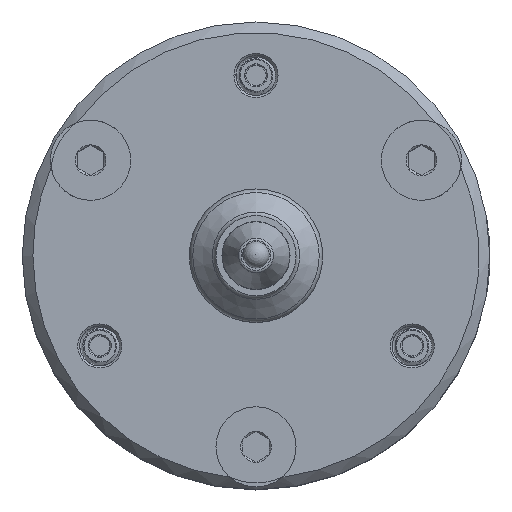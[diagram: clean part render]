
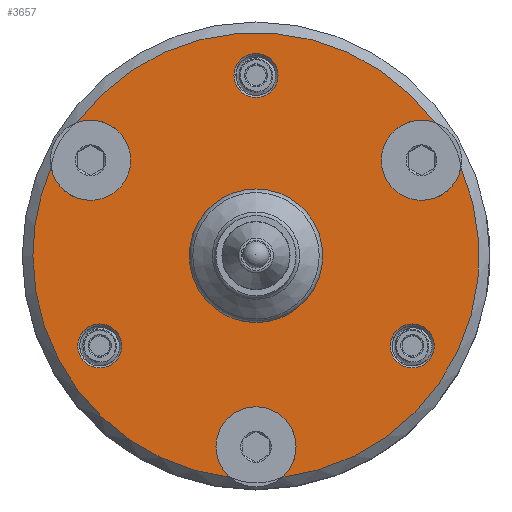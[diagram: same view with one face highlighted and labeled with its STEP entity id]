
A CAD part, top view. The second image highlights one B-rep face of the part: STEP entity #3657.
In plain terms, the highlighted planar face has unit normal (0, 0, 1).
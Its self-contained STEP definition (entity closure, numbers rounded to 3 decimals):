
#99=FACE_BOUND('',#1330,.T.);
#100=FACE_BOUND('',#1331,.T.);
#101=FACE_BOUND('',#1332,.T.);
#102=FACE_BOUND('',#1333,.T.);
#441=PLANE('',#4100);
#1085=FACE_OUTER_BOUND('',#1329,.T.);
#1329=EDGE_LOOP('',(#3186,#3187,#3188,#3189,#3190,#3191,#3192,#3193,#3194));
#1330=EDGE_LOOP('',(#3195));
#1331=EDGE_LOOP('',(#3196));
#1332=EDGE_LOOP('',(#3197));
#1333=EDGE_LOOP('',(#3198));
#1494=CIRCLE('',#4083,16.7);
#1496=CIRCLE('',#4085,16.7);
#1497=CIRCLE('',#4086,16.7);
#1498=CIRCLE('',#4087,16.7);
#1499=CIRCLE('',#4089,3.);
#1501=CIRCLE('',#4091,3.);
#1502=CIRCLE('',#4093,3.);
#1505=CIRCLE('',#4098,1.65);
#1507=CIRCLE('',#4101,3.);
#1508=CIRCLE('',#4102,3.);
#1509=CIRCLE('',#4103,1.65);
#1510=CIRCLE('',#4104,5.);
#1511=CIRCLE('',#4105,1.65);
#1780=VERTEX_POINT('',#11054);
#1781=VERTEX_POINT('',#11055);
#1782=VERTEX_POINT('',#11066);
#1784=VERTEX_POINT('',#11071);
#1786=VERTEX_POINT('',#11080);
#1787=VERTEX_POINT('',#11089);
#1788=VERTEX_POINT('',#11091);
#1789=VERTEX_POINT('',#11104);
#1793=VERTEX_POINT('',#11120);
#1795=VERTEX_POINT('',#11126);
#1796=VERTEX_POINT('',#11129);
#1797=VERTEX_POINT('',#11131);
#1798=VERTEX_POINT('',#11133);
#2253=EDGE_CURVE('',#1781,#1782,#1494,.T.);
#2256=EDGE_CURVE('',#1782,#1784,#1496,.T.);
#2259=EDGE_CURVE('',#1786,#1787,#1497,.T.);
#2261=EDGE_CURVE('',#1788,#1780,#1498,.T.);
#2262=EDGE_CURVE('',#1787,#1789,#1499,.T.);
#2265=EDGE_CURVE('',#1789,#1788,#1501,.T.);
#2266=EDGE_CURVE('',#1784,#1786,#1502,.T.);
#2271=EDGE_CURVE('',#1793,#1793,#1505,.T.);
#2274=EDGE_CURVE('',#1795,#1781,#1507,.T.);
#2275=EDGE_CURVE('',#1780,#1795,#1508,.T.);
#2276=EDGE_CURVE('',#1796,#1796,#1509,.T.);
#2277=EDGE_CURVE('',#1797,#1797,#1510,.T.);
#2278=EDGE_CURVE('',#1798,#1798,#1511,.T.);
#3186=ORIENTED_EDGE('',*,*,#2261,.F.);
#3187=ORIENTED_EDGE('',*,*,#2265,.F.);
#3188=ORIENTED_EDGE('',*,*,#2262,.F.);
#3189=ORIENTED_EDGE('',*,*,#2259,.F.);
#3190=ORIENTED_EDGE('',*,*,#2266,.F.);
#3191=ORIENTED_EDGE('',*,*,#2256,.F.);
#3192=ORIENTED_EDGE('',*,*,#2253,.F.);
#3193=ORIENTED_EDGE('',*,*,#2274,.F.);
#3194=ORIENTED_EDGE('',*,*,#2275,.F.);
#3195=ORIENTED_EDGE('',*,*,#2276,.F.);
#3196=ORIENTED_EDGE('',*,*,#2277,.T.);
#3197=ORIENTED_EDGE('',*,*,#2278,.F.);
#3198=ORIENTED_EDGE('',*,*,#2271,.F.);
#3657=ADVANCED_FACE('',(#1085,#99,#100,#101,#102),#441,.T.);
#4083=AXIS2_PLACEMENT_3D('',#11067,#4834,#4835);
#4085=AXIS2_PLACEMENT_3D('',#11072,#4839,#4840);
#4086=AXIS2_PLACEMENT_3D('',#11090,#4841,#4842);
#4087=AXIS2_PLACEMENT_3D('',#11102,#4843,#4844);
#4089=AXIS2_PLACEMENT_3D('',#11105,#4847,#4848);
#4091=AXIS2_PLACEMENT_3D('',#11109,#4852,#4853);
#4093=AXIS2_PLACEMENT_3D('',#11111,#4856,#4857);
#4098=AXIS2_PLACEMENT_3D('',#11121,#4868,#4869);
#4100=AXIS2_PLACEMENT_3D('',#11125,#4873,#4874);
#4101=AXIS2_PLACEMENT_3D('',#11127,#4875,#4876);
#4102=AXIS2_PLACEMENT_3D('',#11128,#4877,#4878);
#4103=AXIS2_PLACEMENT_3D('',#11130,#4879,#4880);
#4104=AXIS2_PLACEMENT_3D('',#11132,#4881,#4882);
#4105=AXIS2_PLACEMENT_3D('',#11134,#4883,#4884);
#4834=DIRECTION('center_axis',(0.,0.,-1.));
#4835=DIRECTION('ref_axis',(1.,0.,0.));
#4839=DIRECTION('center_axis',(0.,0.,-1.));
#4840=DIRECTION('ref_axis',(1.,0.,0.));
#4841=DIRECTION('center_axis',(0.,0.,-1.));
#4842=DIRECTION('ref_axis',(1.,0.,0.));
#4843=DIRECTION('center_axis',(0.,0.,-1.));
#4844=DIRECTION('ref_axis',(1.,0.,0.));
#4847=DIRECTION('center_axis',(0.,0.,1.));
#4848=DIRECTION('ref_axis',(1.,0.,0.));
#4852=DIRECTION('center_axis',(0.,0.,1.));
#4853=DIRECTION('ref_axis',(1.,0.,0.));
#4856=DIRECTION('center_axis',(0.,0.,1.));
#4857=DIRECTION('ref_axis',(1.,0.,0.));
#4868=DIRECTION('center_axis',(0.,0.,1.));
#4869=DIRECTION('ref_axis',(1.,0.,0.));
#4873=DIRECTION('center_axis',(0.,0.,1.));
#4874=DIRECTION('ref_axis',(1.,0.,0.));
#4875=DIRECTION('center_axis',(0.,0.,1.));
#4876=DIRECTION('ref_axis',(1.,0.,0.));
#4877=DIRECTION('center_axis',(0.,0.,1.));
#4878=DIRECTION('ref_axis',(1.,0.,0.));
#4879=DIRECTION('center_axis',(0.,0.,1.));
#4880=DIRECTION('ref_axis',(1.,0.,0.));
#4881=DIRECTION('center_axis',(0.,0.,-1.));
#4882=DIRECTION('ref_axis',(1.,0.,0.));
#4883=DIRECTION('center_axis',(0.,0.,1.));
#4884=DIRECTION('ref_axis',(1.,0.,0.));
#11054=CARTESIAN_POINT('',(1.942,-16.587,3.));
#11055=CARTESIAN_POINT('',(-1.942,-16.587,3.));
#11066=CARTESIAN_POINT('',(-16.7,0.,3.));
#11067=CARTESIAN_POINT('Origin',(0.,0.,3.));
#11071=CARTESIAN_POINT('',(-15.335,6.612,3.));
#11072=CARTESIAN_POINT('Origin',(0.,0.,3.));
#11080=CARTESIAN_POINT('',(-13.394,9.975,3.));
#11089=CARTESIAN_POINT('',(13.394,9.975,3.));
#11090=CARTESIAN_POINT('Origin',(0.,0.,3.));
#11091=CARTESIAN_POINT('',(15.335,6.612,3.));
#11102=CARTESIAN_POINT('Origin',(0.,0.,3.));
#11104=CARTESIAN_POINT('',(9.384,7.15,3.));
#11105=CARTESIAN_POINT('Origin',(12.384,7.15,3.));
#11109=CARTESIAN_POINT('Origin',(12.384,7.15,3.));
#11111=CARTESIAN_POINT('Origin',(-12.384,7.15,3.));
#11120=CARTESIAN_POINT('',(10.041,-6.75,3.));
#11121=CARTESIAN_POINT('Origin',(11.691,-6.75,3.));
#11125=CARTESIAN_POINT('Origin',(0.,0.,3.));
#11126=CARTESIAN_POINT('',(-3.,-14.3,3.));
#11127=CARTESIAN_POINT('Origin',(0.,-14.3,3.));
#11128=CARTESIAN_POINT('Origin',(0.,-14.3,3.));
#11129=CARTESIAN_POINT('',(-13.341,-6.75,3.));
#11130=CARTESIAN_POINT('Origin',(-11.691,-6.75,3.));
#11131=CARTESIAN_POINT('',(-5.,0.,3.));
#11132=CARTESIAN_POINT('Origin',(0.,0.,3.));
#11133=CARTESIAN_POINT('',(-1.65,13.5,3.));
#11134=CARTESIAN_POINT('Origin',(0.,13.5,
3.));
